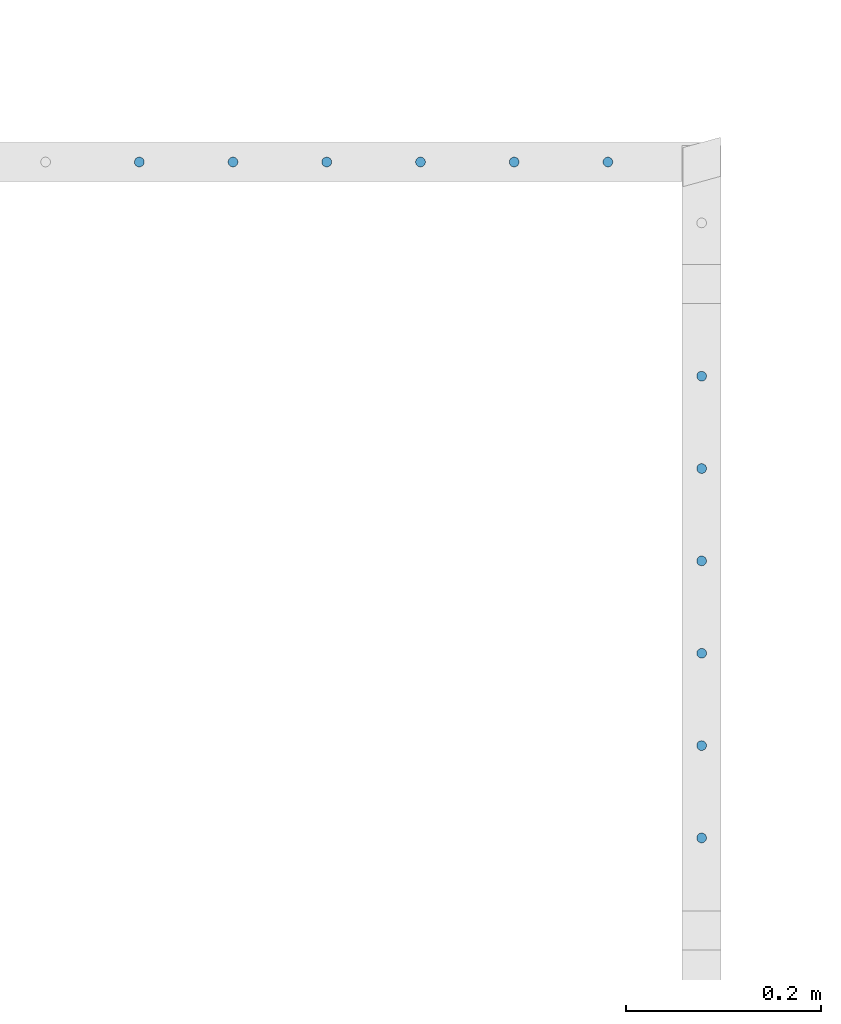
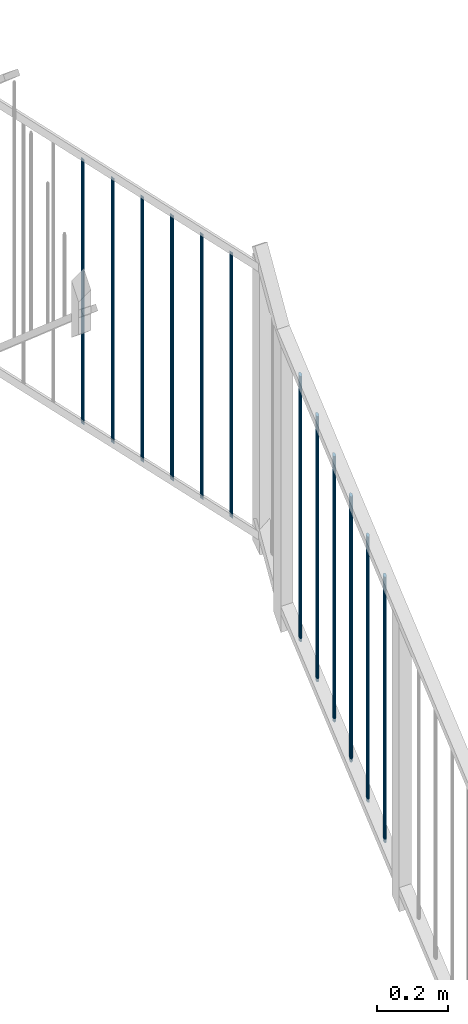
# One storey, part 10 of 135: 12 members, 1 element without a shape of its own.
"""IFC2X3 building model written with IfcOpenShell, lengths in millimetres."""

from ifc_helpers import new_model, entity, si_unit, converted_unit, derived_unit, money_unit, direction, frame, origin_with_axes, place, context, subcontext, project, spatial, faceted_brep, source, transform, mapped, material, type_object, type_shapes, element, aggregate, save


model = new_model("IFC2X3")

# Units and contexts
model_context = context("Model", 3, precision=0.01, world=origin_with_axes(), true_north=direction((0.0, 1.0)))
body_context = subcontext(model_context, "Body", "Model", "MODEL_VIEW")
ifc_project = project(units=[si_unit("LENGTHUNIT", "METRE", prefix="MILLI"), si_unit("AREAUNIT", "SQUARE_METRE"), si_unit("VOLUMEUNIT", "CUBIC_METRE"), converted_unit("PLANEANGLEUNIT", "DEGREE", entity("IfcPlaneAngleMeasure", 0.0174532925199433), si_unit("PLANEANGLEUNIT", "RADIAN"), dimensions=[0, 0, 0, 0, 0, 0, 0]), money_unit("EUR"), converted_unit("TIMEUNIT", "Year", entity("IfcTimeMeasure", 31557600.0), si_unit("TIMEUNIT", "SECOND"), dimensions=[0, 0, 1, 0, 0, 0, 0]), si_unit("MASSUNIT", "GRAM", prefix="KILO"), si_unit("THERMODYNAMICTEMPERATUREUNIT", "DEGREE_CELSIUS"), si_unit("LUMINOUSINTENSITYUNIT", "LUMEN"), si_unit("ENERGYUNIT", "JOULE", prefix="MEGA"), derived_unit("THERMALCONDUCTANCEUNIT", [(si_unit("POWERUNIT", "WATT"), 1), (si_unit("LENGTHUNIT", "METRE"), -1), (si_unit("THERMODYNAMICTEMPERATUREUNIT", "KELVIN"), -1)]), derived_unit("SPECIFICHEATCAPACITYUNIT", [(si_unit("ENERGYUNIT", "JOULE"), 1), (si_unit("MASSUNIT", "GRAM", prefix="KILO"), -1), (si_unit("THERMODYNAMICTEMPERATUREUNIT", "KELVIN"), -1)]), derived_unit("MASSDENSITYUNIT", [(si_unit("MASSUNIT", "GRAM", prefix="KILO"), 1), (si_unit("VOLUMEUNIT", "CUBIC_METRE"), -1)])], contexts=[model_context])

# Site, building, storey
site_placement = place(None, origin_with_axes())
site = spatial("IfcSite", under=ifc_project, at=site_placement, Name="Site", CompositionType="ELEMENT")
building_placement = place(site_placement, origin_with_axes())
building = spatial("IfcBuilding", under=site, at=building_placement, Name="Naam gebouw", CompositionType="ELEMENT")
storey_placement = place(building_placement, origin_with_axes())
storey = spatial("IfcBuildingStorey", under=building, at=storey_placement, Name="Begane grond N", CompositionType="ELEMENT", Elevation=0.0)

# Railing, members
railing_type = type_object("IfcRailingType", Name="Railing Type", PredefinedType="NOTDEFINED")
railing_placement = place(storey_placement, frame((799.9999999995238, 21575.82979156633, 4340.731848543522), z_axis=(0.0, 0.0, 1.0), x_axis=(1.0, 0.0, 0.0)))
railing = element("IfcRailing", 1, at=railing_placement, inside=storey, type_object=railing_type, Name="_Reling-x", PredefinedType="NOTDEFINED")
ifc_material = material(Name="Metaal - Staal C")
member_type = type_object("IfcMemberType", Name="IfcMember", PredefinedType="MEMBER")
shared_shape_1 = source(origin_with_axes(), body_context, "Body", "Brep", [
    faceted_brep([(0.0, -5.0, -4.223047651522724), (0.8682408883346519, -4.92403876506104, -4.158890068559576), (0.8682408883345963, -4.92403876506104, 903.3411099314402), (0.0, -5.0, 903.276952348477), (-0.8682408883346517, -4.92403876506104, -4.158890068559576), (-1.710100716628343, -4.698463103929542, -3.968366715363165), (-2.500000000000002, -4.330127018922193, -3.657266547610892), (-3.213938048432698, -3.830222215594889, -3.235042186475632), (-3.830222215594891, -3.213938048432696, -2.714522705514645), (-4.330127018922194, -2.5, -2.111523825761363), (-4.698463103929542, -1.710100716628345, -1.444367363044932), (-4.924038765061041, -0.86824088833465, -0.7333245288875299), (-5.0, 0.0, 0.0), (-4.92403876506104, 0.8682408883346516, 0.7333245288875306), (-4.698463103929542, 1.710100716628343, 1.44436736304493), (-4.330127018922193, 2.500000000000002, 2.111523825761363), (-3.83022221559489, 3.213938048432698, 2.714522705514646), (-3.213938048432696, 3.83022221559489, 3.235042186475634), (-2.500000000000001, 4.330127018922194, 3.657266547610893), (-1.710100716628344, 4.698463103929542, 3.968366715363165), (-0.8682408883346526, 4.92403876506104, 4.158890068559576), (0.0, 5.0, 4.223047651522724), (0.8682408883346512, 4.92403876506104, 4.158890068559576), (1.710100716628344, 4.698463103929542, 3.968366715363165), (2.499999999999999, 4.330127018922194, 3.657266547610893), (3.213938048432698, 3.83022221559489, 3.235042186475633), (3.83022221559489, 3.213938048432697, 2.714522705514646), (4.330127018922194, 2.499999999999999, 2.111523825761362), (4.698463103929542, 1.710100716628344, 1.444367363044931), (4.92403876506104, 0.8682408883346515, 0.7333245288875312), (5.0, 0.0, 0.0), (4.92403876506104, -0.8682408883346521, -0.7333245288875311), (4.698463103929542, -1.710100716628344, -1.444367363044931), (4.330127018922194, -2.5, -2.111523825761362), (3.83022221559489, -3.213938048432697, -2.714522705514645), (3.213938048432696, -3.83022221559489, -3.235042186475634), (2.5, -4.330127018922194, -3.657266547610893), (1.710100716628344, -4.698463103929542, -3.968366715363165), (1.710100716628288, -4.698463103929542, 903.5316332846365), (2.499999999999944, -4.330127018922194, 903.8427334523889), (3.213938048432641, -3.83022221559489, 904.2649578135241), (3.830222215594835, -3.213938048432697, 904.7854772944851), (4.330127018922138, -2.5, 905.3884761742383), (4.698463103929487, -1.710100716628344, 906.0556326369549), (4.924038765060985, -0.8682408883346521, 906.7666754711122), (4.999999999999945, 0.0, 907.4999999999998), (4.924038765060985, 0.8682408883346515, 908.2333245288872), (4.698463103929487, 1.710100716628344, 908.9443673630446), (4.330127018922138, 2.499999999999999, 909.6115238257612), (3.830222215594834, 3.213938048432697, 910.2145227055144), (3.213938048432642, 3.83022221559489, 910.7350421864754), (2.499999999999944, 4.330127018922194, 911.1572665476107), (1.710100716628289, 4.698463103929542, 911.4683667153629), (0.8682408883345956, 4.92403876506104, 911.6588900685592), (0.0, 5.0, 911.7230476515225), (-0.8682408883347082, 4.92403876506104, 911.6588900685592), (-1.710100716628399, 4.698463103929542, 911.4683667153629), (-2.500000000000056, 4.330127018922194, 911.1572665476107), (-3.213938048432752, 3.83022221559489, 910.7350421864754), (-3.830222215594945, 3.213938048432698, 910.2145227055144), (-4.330127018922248, 2.500000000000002, 909.6115238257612), (-4.698463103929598, 1.710100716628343, 908.9443673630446), (-4.924038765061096, 0.8682408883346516, 908.2333245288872), (-5.000000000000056, 0.0, 907.4999999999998), (-4.924038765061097, -0.86824088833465, 906.7666754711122), (-4.698463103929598, -1.710100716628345, 906.0556326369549), (-4.330127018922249, -2.5, 905.3884761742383), (-3.830222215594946, -3.213938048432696, 904.7854772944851), (-3.213938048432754, -3.830222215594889, 904.2649578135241), (-2.500000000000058, -4.330127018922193, 903.8427334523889), (-1.710100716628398, -4.698463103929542, 903.5316332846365), (-0.8682408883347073, -4.92403876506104, 903.3411099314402)], [[[0, 1, 2, 3]], [[0, 4, 5, 6, 7, 8, 9, 10, 11, 12, 13, 14, 15, 16, 17, 18, 19, 20, 21, 22, 23, 24, 25, 26, 27, 28, 29, 30, 31, 32, 33, 34, 35, 36, 37, 1]], [[1, 37, 38, 2]], [[3, 2, 38, 39, 40, 41, 42, 43, 44, 45, 46, 47, 48, 49, 50, 51, 52, 53, 54, 55, 56, 57, 58, 59, 60, 61, 62, 63, 64, 65, 66, 67, 68, 69, 70, 71]], [[4, 0, 3, 71]], [[5, 4, 71, 70]], [[6, 5, 70, 69]], [[7, 6, 69, 68]], [[8, 7, 68, 67]], [[9, 8, 67, 66]], [[10, 9, 66, 65]], [[11, 10, 65, 64]], [[12, 11, 64, 63]], [[13, 12, 63, 62]], [[14, 13, 62, 61]], [[15, 14, 61, 60]], [[16, 15, 60, 59]], [[17, 16, 59, 58]], [[18, 17, 58, 57]], [[19, 18, 57, 56]], [[20, 19, 56, 55]], [[21, 20, 55, 54]], [[22, 21, 54, 53]], [[23, 22, 53, 52]], [[24, 23, 52, 51]], [[25, 24, 51, 50]], [[26, 25, 50, 49]], [[27, 26, 49, 48]], [[28, 27, 48, 47]], [[29, 28, 47, 46]], [[30, 29, 46, 45]], [[31, 30, 45, 44]], [[32, 31, 44, 43]], [[33, 32, 43, 42]], [[34, 33, 42, 41]], [[35, 34, 41, 40]], [[36, 35, 40, 39]], [[37, 36, 39, 38]]]),
])
member_1_placement = place(railing_placement, frame((-124.9824699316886, 756.8953771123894, 709.2810489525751), z_axis=(0.0, 0.0, 1.0), x_axis=(1.0, 0.0, 0.0)))
member_1 = element("IfcMember", 2, at=member_1_placement, type_object=member_type, material=ifc_material, Name="_Spijlen-x", ObjectType="MEMBER", context=body_context, shape_type="MappedRepresentation", body=[
    mapped(shared_shape_1, transform((0.0, 0.0, 0.0))),
])
member_2_placement = place(railing_placement, frame((-124.9824699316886, 851.5072992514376, 789.1911800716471), z_axis=(0.0, 0.0, 1.0), x_axis=(1.0, 0.0, 0.0)))
member_2 = element("IfcMember", 3, at=member_2_placement, type_object=member_type, material=ifc_material, Name="_Spijlen-x", ObjectType="MEMBER", context=body_context, shape_type="MappedRepresentation", body=[
    mapped(shared_shape_1, transform((0.0, 0.0, 0.0))),
])
member_3_placement = place(railing_placement, frame((-124.9824699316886, 946.1192213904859, 869.1013111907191), z_axis=(0.0, 0.0, 1.0), x_axis=(1.0, 0.0, 0.0)))
member_3 = element("IfcMember", 4, at=member_3_placement, type_object=member_type, material=ifc_material, Name="_Spijlen-x", ObjectType="MEMBER", context=body_context, shape_type="MappedRepresentation", body=[
    mapped(shared_shape_1, transform((0.0, 0.0, 0.0))),
])
member_4_placement = place(railing_placement, frame((-124.9824699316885, 1040.731143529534, 949.0114423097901), z_axis=(0.0, 0.0, 1.0), x_axis=(1.0, 0.0, 0.0)))
member_4 = element("IfcMember", 5, at=member_4_placement, type_object=member_type, material=ifc_material, Name="_Spijlen-x", ObjectType="MEMBER", context=body_context, shape_type="MappedRepresentation", body=[
    mapped(shared_shape_1, transform((0.0, 0.0, 0.0))),
])
member_5_placement = place(railing_placement, frame((-124.9824699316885, 1135.343065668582, 1028.921573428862), z_axis=(0.0, 0.0, 1.0), x_axis=(1.0, 0.0, 0.0)))
member_5 = element("IfcMember", 6, at=member_5_placement, type_object=member_type, material=ifc_material, Name="_Spijlen-x", ObjectType="MEMBER", context=body_context, shape_type="MappedRepresentation", body=[
    mapped(shared_shape_1, transform((0.0, 0.0, 0.0))),
])
member_6_placement = place(railing_placement, frame((-124.9824699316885, 1229.95498780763, 1108.831704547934), z_axis=(0.0, 0.0, 1.0), x_axis=(1.0, 0.0, 0.0)))
member_6 = element("IfcMember", 7, at=member_6_placement, type_object=member_type, material=ifc_material, Name="_Spijlen-x", ObjectType="MEMBER", context=body_context, shape_type="MappedRepresentation", body=[
    mapped(shared_shape_1, transform((0.0, 0.0, 0.0))),
])
shared_shape_2 = source(origin_with_axes(), body_context, "Body", "Brep", [
    faceted_brep([(0.0, -5.0, -5.073349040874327), (0.868240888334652, -4.92403876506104, -4.996273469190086), (0.8682408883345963, -4.924038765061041, 902.5037265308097), (0.0, -5.000000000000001, 902.4266509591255), (-0.8682408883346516, -4.92403876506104, -4.996273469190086), (-1.710100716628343, -4.698463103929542, -4.767388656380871), (-2.500000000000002, -4.330127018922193, -4.393649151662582), (-3.213938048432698, -3.830222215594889, -3.886410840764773), (-3.830222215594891, -3.213938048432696, -3.261085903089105), (-4.330127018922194, -2.5, -2.536674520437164), (-4.698463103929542, -1.710100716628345, -1.735187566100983), (-4.924038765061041, -0.86824088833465, -0.8809778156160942), (-5.0, 0.0, 0.0), (-4.92403876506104, 0.8682408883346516, 0.8809778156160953), (-4.698463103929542, 1.710100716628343, 1.73518756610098), (-4.330127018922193, 2.500000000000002, 2.536674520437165), (-3.83022221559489, 3.213938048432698, 3.261085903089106), (-3.213938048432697, 3.83022221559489, 3.886410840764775), (-2.500000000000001, 4.330127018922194, 4.393649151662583), (-1.710100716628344, 4.698463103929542, 4.767388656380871), (-0.8682408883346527, 4.92403876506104, 4.996273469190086), (0.0, 5.0, 5.073349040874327), (0.8682408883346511, 4.92403876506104, 4.996273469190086), (1.710100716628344, 4.698463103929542, 4.767388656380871), (2.499999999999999, 4.330127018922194, 4.393649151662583), (3.213938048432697, 3.83022221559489, 3.886410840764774), (3.83022221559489, 3.213938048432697, 3.261085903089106), (4.330127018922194, 2.499999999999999, 2.536674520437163), (4.698463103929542, 1.710100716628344, 1.735187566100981), (4.92403876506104, 0.8682408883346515, 0.8809778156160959), (5.0, 0.0, 0.0), (4.92403876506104, -0.8682408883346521, -0.8809778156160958), (4.698463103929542, -1.710100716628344, -1.735187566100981), (4.330127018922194, -2.5, -2.536674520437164), (3.83022221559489, -3.213938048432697, -3.261085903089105), (3.213938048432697, -3.83022221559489, -3.886410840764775), (2.5, -4.330127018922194, -4.393649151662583), (1.710100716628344, -4.698463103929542, -4.767388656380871), (1.710100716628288, -4.698463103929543, 902.7326113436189), (2.499999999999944, -4.330127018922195, 903.1063508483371), (3.213938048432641, -3.830222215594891, 903.613589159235), (3.830222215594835, -3.213938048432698, 904.2389140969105), (4.330127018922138, -2.500000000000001, 904.9633254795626), (4.698463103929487, -1.710100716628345, 905.7648124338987), (4.924038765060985, -0.8682408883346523, 906.6190221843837), (4.999999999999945, 0.0, 907.4999999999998), (4.924038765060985, 0.8682408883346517, 908.3809778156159), (4.698463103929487, 1.710100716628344, 909.2351875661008), (4.330127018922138, 2.499999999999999, 910.0366745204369), (3.830222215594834, 3.213938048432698, 910.7610859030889), (3.213938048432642, 3.83022221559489, 911.3864108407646), (2.499999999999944, 4.330127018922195, 911.8936491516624), (1.710100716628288, 4.698463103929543, 912.2673886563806), (0.8682408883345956, 4.924038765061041, 912.4962734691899), (0.0, 5.000000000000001, 912.5733490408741), (-0.8682408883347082, 4.924038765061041, 912.4962734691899), (-1.710100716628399, 4.698463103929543, 912.2673886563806), (-2.500000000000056, 4.330127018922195, 911.8936491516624), (-3.213938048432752, 3.830222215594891, 911.3864108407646), (-3.830222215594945, 3.213938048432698, 910.7610859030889), (-4.330127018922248, 2.500000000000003, 910.0366745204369), (-4.698463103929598, 1.710100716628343, 909.2351875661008), (-4.924038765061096, 0.8682408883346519, 908.3809778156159), (-5.000000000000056, 0.0, 907.4999999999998), (-4.924038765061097, -0.8682408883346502, 906.6190221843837), (-4.698463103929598, -1.710100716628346, 905.7648124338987), (-4.330127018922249, -2.500000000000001, 904.9633254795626), (-3.830222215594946, -3.213938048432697, 904.2389140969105), (-3.213938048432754, -3.83022221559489, 903.613589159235), (-2.500000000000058, -4.330127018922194, 903.1063508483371), (-1.710100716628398, -4.698463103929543, 902.7326113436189), (-0.8682408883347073, -4.924038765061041, 902.5037265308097)], [[[0, 1, 2, 3]], [[0, 4, 5, 6, 7, 8, 9, 10, 11, 12, 13, 14, 15, 16, 17, 18, 19, 20, 21, 22, 23, 24, 25, 26, 27, 28, 29, 30, 31, 32, 33, 34, 35, 36, 37, 1]], [[1, 37, 38, 2]], [[3, 2, 38, 39, 40, 41, 42, 43, 44, 45, 46, 47, 48, 49, 50, 51, 52, 53, 54, 55, 56, 57, 58, 59, 60, 61, 62, 63, 64, 65, 66, 67, 68, 69, 70, 71]], [[4, 0, 3, 71]], [[5, 4, 71, 70]], [[6, 5, 70, 69]], [[7, 6, 69, 68]], [[8, 7, 68, 67]], [[9, 8, 67, 66]], [[10, 9, 66, 65]], [[11, 10, 65, 64]], [[12, 11, 64, 63]], [[13, 12, 63, 62]], [[14, 13, 62, 61]], [[15, 14, 61, 60]], [[16, 15, 60, 59]], [[17, 16, 59, 58]], [[18, 17, 58, 57]], [[19, 18, 57, 56]], [[20, 19, 56, 55]], [[21, 20, 55, 54]], [[22, 21, 54, 53]], [[23, 22, 53, 52]], [[24, 23, 52, 51]], [[25, 24, 51, 50]], [[26, 25, 50, 49]], [[27, 26, 49, 48]], [[28, 27, 48, 47]], [[29, 28, 47, 46]], [[30, 29, 46, 45]], [[31, 30, 45, 44]], [[32, 31, 44, 43]], [[33, 32, 43, 42]], [[34, 33, 42, 41]], [[35, 34, 41, 40]], [[36, 35, 40, 39]], [[37, 36, 39, 38]]]),
])
type_shapes(member_type, [shared_shape_1, shared_shape_2])
member_7_placement = place(railing_placement, frame((-221.0039549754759, 1449.287334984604, 1427.701037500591), z_axis=(0.0, 0.0, 1.0), x_axis=(1.0, 0.0, 0.0)))
member_7 = element("IfcMember", 8, at=member_7_placement, type_object=member_type, material=ifc_material, Name="_Spijlen-x", ObjectType="MEMBER", context=body_context, shape_type="MappedRepresentation", body=[
    mapped(shared_shape_2, transform((0.0, 0.0, 0.0), x_axis=(0.0, 1.0, 0.0), y_axis=(-1.0, 0.0, 0.0), z_axis=(0.0, 0.0, 1.0))),
])
member_8_placement = place(railing_placement, frame((-317.0035155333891, 1449.287334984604, 1525.10889319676), z_axis=(0.0, 0.0, 1.0), x_axis=(1.0, 0.0, 0.0)))
member_8 = element("IfcMember", 9, at=member_8_placement, type_object=member_type, material=ifc_material, Name="_Spijlen-x", ObjectType="MEMBER", context=body_context, shape_type="MappedRepresentation", body=[
    mapped(shared_shape_2, transform((0.0, 0.0, 0.0), x_axis=(0.0, 1.0, 0.0), y_axis=(-1.0, 0.0, 0.0), z_axis=(0.0, 0.0, 1.0))),
])
member_9_placement = place(railing_placement, frame((-509.0026366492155, 1449.287334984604, 1719.924604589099), z_axis=(0.0, 0.0, 1.0), x_axis=(1.0, 0.0, 0.0)))
member_9 = element("IfcMember", 10, at=member_9_placement, type_object=member_type, material=ifc_material, Name="_Spijlen-x", ObjectType="MEMBER", context=body_context, shape_type="MappedRepresentation", body=[
    mapped(shared_shape_2, transform((0.0, 0.0, 0.0), x_axis=(0.0, 1.0, 0.0), y_axis=(-1.0, 0.0, 0.0), z_axis=(0.0, 0.0, 1.0))),
])
member_10_placement = place(railing_placement, frame((-605.0021972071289, 1449.287334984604, 1817.332460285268), z_axis=(0.0, 0.0, 1.0), x_axis=(1.0, 0.0, 0.0)))
member_10 = element("IfcMember", 11, at=member_10_placement, type_object=member_type, material=ifc_material, Name="_Spijlen-x", ObjectType="MEMBER", context=body_context, shape_type="MappedRepresentation", body=[
    mapped(shared_shape_2, transform((0.0, 0.0, 0.0), x_axis=(0.0, 1.0, 0.0), y_axis=(-1.0, 0.0, 0.0), z_axis=(0.0, 0.0, 1.0))),
])
member_11_placement = place(railing_placement, frame((-701.001757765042, 1449.287334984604, 1914.740315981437), z_axis=(0.0, 0.0, 1.0), x_axis=(1.0, 0.0, 0.0)))
member_11 = element("IfcMember", 12, at=member_11_placement, type_object=member_type, material=ifc_material, Name="_Spijlen-x", ObjectType="MEMBER", context=body_context, shape_type="MappedRepresentation", body=[
    mapped(shared_shape_2, transform((0.0, 0.0, 0.0), x_axis=(0.0, 1.0, 0.0), y_axis=(-1.0, 0.0, 0.0), z_axis=(0.0, 0.0, 1.0))),
])
member_12_placement = place(railing_placement, frame((-413.0030760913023, 1449.287334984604, 1622.516748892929), z_axis=(0.0, 0.0, 1.0), x_axis=(1.0, 0.0, 0.0)))
member_12 = element("IfcMember", 13, at=member_12_placement, type_object=member_type, material=ifc_material, Name="_Spijlen-x", ObjectType="MEMBER", context=body_context, shape_type="MappedRepresentation", body=[
    mapped(shared_shape_2, transform((0.0, 0.0, 0.0), x_axis=(0.0, 1.0, 0.0), y_axis=(-1.0, 0.0, 0.0), z_axis=(0.0, 0.0, 1.0))),
])
aggregate(railing, [member_1, member_2, member_3, member_4, member_5, member_6, member_7, member_8, member_9, member_10, member_11, member_12])

save(model, "model.ifc")
